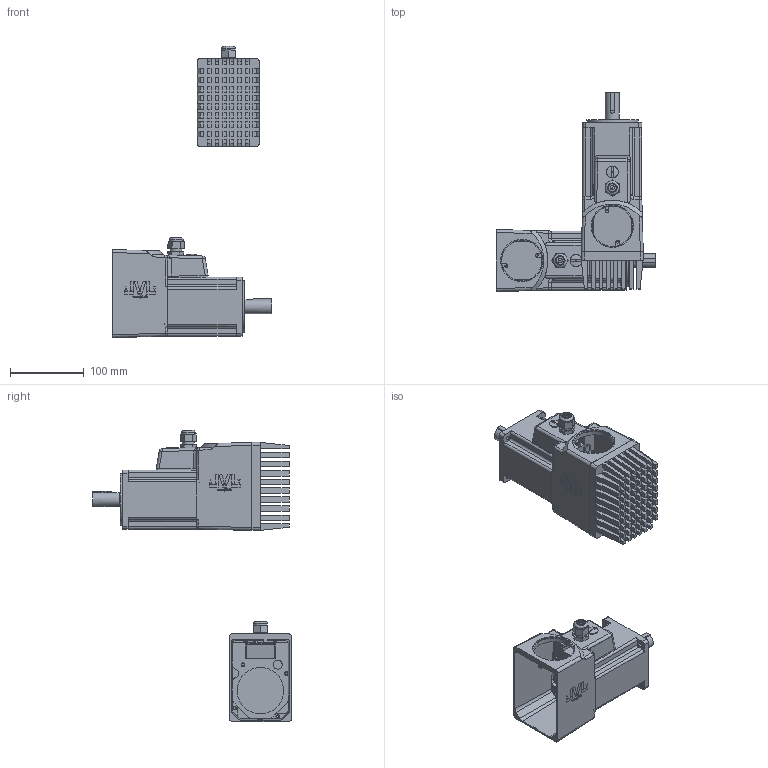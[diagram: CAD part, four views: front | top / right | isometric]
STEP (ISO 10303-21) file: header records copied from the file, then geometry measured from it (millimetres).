
FILE_DESCRIPTION( ( 'Unknown' ), '1' );
FILE_NAME( 'K:/JVL/MACxxx/BMAC/MAC1000_1200/Tegninger/MAC1000-D2-xxxxx.stp', 'Unknown', ( 'Unknown' ), ( 'Unknown' ), 'PSStep 11.0', 'Unknown', ' ' );
FILE_SCHEMA( ( 'AUTOMOTIVE_DESIGN { 1 0 10303 214 1 1 1 1 }' ) );
Length unit declared in the file: millimetre
Products named in the file (5): Assem1; MM3533; Mac1000-D2
Bounding box: 216.2 x 269.66 x 395.18 mm (x, y, z)
Volume: 1867044.1 mm3; surface area: 456378.1 mm2
Topology: 8 solids, 10 shells, 1954 faces, 4932 edges, 3258 vertices
Faces by surface type: plane 1610, cylinder 212, extrusion 80, bspline 28, cone 18, sphere 4, torus 2
Full cylindrical faces by diameter (mm): 1 x4, 2 x4, 3.4 x8, 5.4 x8, 6 x2, 8 x8, 10.5 x4, 12 x2, 16 x4, 19 x4, 20 x2, 55 x2, 57.5 x2, 63 x2, 69 x2, 70 x2
Entity records: 38225 total; most frequent: CARTESIAN_POINT 7091, ORIENTED_EDGE 4806, DIRECTION 4447, EDGE_CURVE 2403, VECTOR 2049, LINE 2009, VERTEX_POINT 1609, AXIS2_PLACEMENT_3D 1199
